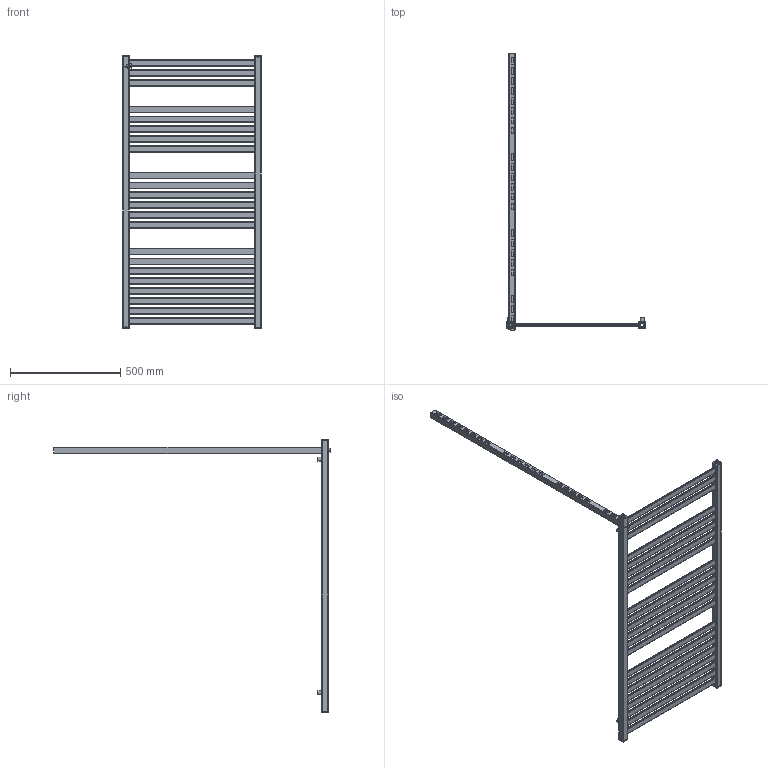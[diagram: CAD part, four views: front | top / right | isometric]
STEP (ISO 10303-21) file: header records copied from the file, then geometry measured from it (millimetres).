
FILE_DESCRIPTION( ( 'Unknown' ), '1' );
FILE_NAME( 'D:/Alplast sp. j/Witryna zespoBu - Projekty/Archiwum/Grzejniki Archiwum/Projekty/STANDARD/AK-EP/AK5-600EP.stp', 'Unknown', ( 'Unknown' ), ( 'Unknown' ), 'PSStep 10.1', 'Unknown', ' ' );
FILE_SCHEMA( ( 'AUTOMOTIVE_DESIGN { 1 0 10303 214 1 1 1 1 }' ) );
Length unit declared in the file: millimetre
Products named in the file (5): Assem1; zaslepka kwadrat otwor; AK5-EPEL; kana³  poziomy 30x10  600; mocowanie
Bounding box: 630 x 1254 x 1240.13 mm (x, y, z)
Volume: 2028964.5 mm3; surface area: 2716929.5 mm2
Topology: 36 solids, 36 shells, 1044 faces, 2886 edges, 1924 vertices
Faces by surface type: plane 594, cylinder 440, torus 10
Full cylindrical faces by diameter (mm): 16 x5, 18 x5, 18.631 x5, 23 x5
Entity records: 9986 total; most frequent: DIRECTION 1434, CARTESIAN_POINT 1389, ORIENTED_EDGE 1340, EDGE_CURVE 670, AXIS2_PLACEMENT_3D 495, VERTEX_POINT 450, LINE 444, VECTOR 444
